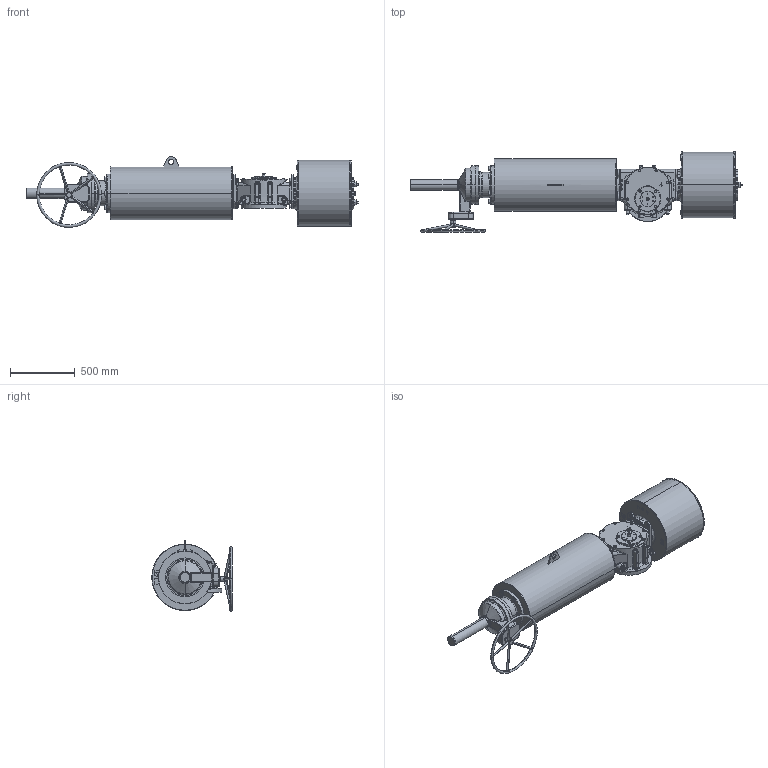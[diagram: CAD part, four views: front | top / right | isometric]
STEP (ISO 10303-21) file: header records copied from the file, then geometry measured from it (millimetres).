
FILE_DESCRIPTION (( 'STEP AP203' ), '1' );
FILE_NAME ('VTS4-500-SR-MG-FO.STEP', '2023-01-01T09:28:03', ( '' ), ( '' ), 'SwSTEP 2.0', 'SolidWorks 2020', '' );
FILE_SCHEMA (( 'CONFIG_CONTROL_DESIGN' ));
Length unit declared in the file: millimetre
Products named in the file (1): VTS4-500-SR-MG-FO
Bounding box: 2562.5 x 622 x 545.7 mm (x, y, z)
Volume: 251135736.5 mm3; surface area: 4841817.1 mm2
Topology: 18 solids, 21 shells, 2350 faces, 5928 edges, 3711 vertices
Faces by surface type: plane 881, cylinder 763, cone 479, bspline 160, torus 67
Entity records: 91097 total; most frequent: CARTESIAN_POINT 35783, ORIENTED_EDGE 11684, DIRECTION 11504, EDGE_CURVE 5842, AXIS2_PLACEMENT_3D 4583, VERTEX_POINT 3711, EDGE_LOOP 2633, CIRCLE 2392
